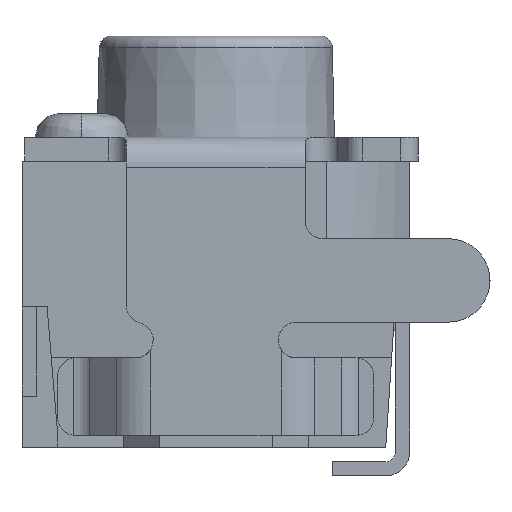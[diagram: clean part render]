
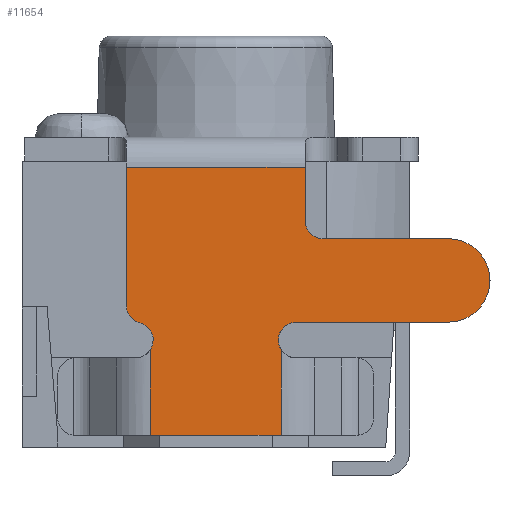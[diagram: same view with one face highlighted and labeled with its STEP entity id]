
A CAD part, left-side view. The second image highlights one B-rep face of the part: STEP entity #11654.
In plain terms, the highlighted planar face has unit normal (-1, 0, 0).
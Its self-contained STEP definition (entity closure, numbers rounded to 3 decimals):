
#1401=DIRECTION('',(0.,1.,0.));
#1402=VECTOR('',#1401,1.5);
#1403=CARTESIAN_POINT('',(-2.275,-0.75,-0.05));
#1404=LINE('',#1403,#1402);
#4784=CARTESIAN_POINT('',(-2.275,0.675,-1.5));
#4785=DIRECTION('',(-1.,0.,0.));
#4786=DIRECTION('',(0.,-0.845,-0.534));
#4787=AXIS2_PLACEMENT_3D('',#4784,#4785,#4786);
#4792=CARTESIAN_POINT('',(-2.275,0.6,-1.21));
#4793=DIRECTION('',(1.,0.,0.));
#4794=DIRECTION('',(0.,0.25,-0.968));
#4795=AXIS2_PLACEMENT_3D('',#4792,#4793,#4794);
#4800=DIRECTION('',(0.,0.,1.));
#4801=VECTOR('',#4800,1.16);
#4802=CARTESIAN_POINT('',(-2.275,0.75,-1.21));
#4803=LINE('',#4802,#4801);
#4807=CARTESIAN_POINT('',(-2.275,-0.9,-0.5));
#4808=DIRECTION('',(-1.,0.,0.));
#4809=DIRECTION('',(0.,1.,0.));
#4810=AXIS2_PLACEMENT_3D('',#4807,#4808,#4809);
#4815=CARTESIAN_POINT('',(-2.275,-1.95,-1.));
#4816=DIRECTION('',(1.,0.,0.));
#4817=DIRECTION('',(0.,0.,1.));
#4818=AXIS2_PLACEMENT_3D('',#4815,#4816,#4817);
#4823=CARTESIAN_POINT('',(-2.275,-0.675,-1.5));
#4824=DIRECTION('',(-1.,0.,0.));
#4825=DIRECTION('',(0.,0.,1.));
#4826=AXIS2_PLACEMENT_3D('',#4823,#4824,#4825);
#4831=DIRECTION('',(0.,1.,0.));
#4832=VECTOR('',#4831,1.096);
#4833=CARTESIAN_POINT('',(-2.275,-0.548,-2.3));
#4834=LINE('',#4833,#4832);
#4922=DIRECTION('',(0.,0.,1.));
#4923=VECTOR('',#4922,0.45);
#4924=CARTESIAN_POINT('',(-2.275,-0.75,-0.5));
#4925=LINE('',#4924,#4923);
#4958=DIRECTION('',(0.,1.,0.));
#4959=VECTOR('',#4958,1.05);
#4960=CARTESIAN_POINT('',(-2.275,-1.95,-0.65));
#4961=LINE('',#4960,#4959);
#4979=DIRECTION('',(0.,-1.,0.));
#4980=VECTOR('',#4979,1.275);
#4981=CARTESIAN_POINT('',(-2.275,-0.675,-1.35));
#4982=LINE('',#4981,#4980);
#4993=DIRECTION('',(0.,0.,-1.));
#4994=VECTOR('',#4993,0.72);
#4995=CARTESIAN_POINT('',(-2.275,0.548,-1.58));
#4996=LINE('',#4995,#4994);
#5073=DIRECTION('',(0.,0.,1.));
#5074=VECTOR('',#5073,0.72);
#5075=CARTESIAN_POINT('',(-2.275,-0.548,-2.3));
#5076=LINE('',#5075,#5074);
#5911=CARTESIAN_POINT('',(-2.275,-0.75,-0.5));
#5912=VERTEX_POINT('',#5911);
#5913=CARTESIAN_POINT('',(-2.275,-0.75,-0.05));
#5914=VERTEX_POINT('',#5913);
#5918=CARTESIAN_POINT('',(-2.275,0.75,-0.05));
#5920=VERTEX_POINT('',#5918);
#5921=CARTESIAN_POINT('',(-2.275,0.75,-1.21));
#5922=VERTEX_POINT('',#5921);
#5925=CARTESIAN_POINT('',(-2.275,0.638,-1.355));
#5926=VERTEX_POINT('',#5925);
#5927=CARTESIAN_POINT('',(-2.275,-0.9,-0.65));
#5928=VERTEX_POINT('',#5927);
#5929=CARTESIAN_POINT('',(-2.275,-0.548,-2.3));
#5930=CARTESIAN_POINT('',(-2.275,-0.548,-1.58));
#5931=VERTEX_POINT('',#5929);
#5932=VERTEX_POINT('',#5930);
#5933=CARTESIAN_POINT('',(-2.275,0.548,-2.3));
#5934=VERTEX_POINT('',#5933);
#5935=CARTESIAN_POINT('',(-2.275,0.548,-1.58));
#5936=VERTEX_POINT('',#5935);
#6002=CARTESIAN_POINT('',(-2.275,-0.675,-1.35));
#6004=VERTEX_POINT('',#6002);
#6485=CARTESIAN_POINT('',(-2.275,-1.95,-0.65));
#6486=CARTESIAN_POINT('',(-2.275,-1.95,-1.35));
#6487=VERTEX_POINT('',#6485);
#6488=VERTEX_POINT('',#6486);
#11624=CARTESIAN_POINT('',(-2.275,-0.75,0.));
#11625=DIRECTION('',(1.,0.,0.));
#11626=DIRECTION('',(0.,-1.,0.));
#11627=AXIS2_PLACEMENT_3D('',#11624,#11625,#11626);
#11628=PLANE('',#11627);
#11630=ORIENTED_EDGE('',*,*,#11629,.T.);
#11632=ORIENTED_EDGE('',*,*,#11631,.T.);
#11634=ORIENTED_EDGE('',*,*,#11633,.T.);
#11635=ORIENTED_EDGE('',*,*,#7509,.F.);
#11637=ORIENTED_EDGE('',*,*,#11636,.F.);
#11639=ORIENTED_EDGE('',*,*,#11638,.T.);
#11641=ORIENTED_EDGE('',*,*,#11640,.F.);
#11643=ORIENTED_EDGE('',*,*,#11642,.T.);
#11645=ORIENTED_EDGE('',*,*,#11644,.F.);
#11646=ORIENTED_EDGE('',*,*,#11601,.T.);
#11648=ORIENTED_EDGE('',*,*,#11647,.F.);
#11649=ORIENTED_EDGE('',*,*,#11268,.T.);
#11651=ORIENTED_EDGE('',*,*,#11650,.F.);
#11652=EDGE_LOOP('',(#11630,#11632,#11634,#11635,#11637,#11639,#11641,#11643,
#11645,#11646,#11648,#11649,#11651));
#11653=FACE_OUTER_BOUND('',#11652,.F.);
#4788=CIRCLE('',#4787,0.15);
#4796=CIRCLE('',#4795,0.15);
#4811=CIRCLE('',#4810,0.15);
#4819=CIRCLE('',#4818,0.35);
#4827=CIRCLE('',#4826,0.15);
#7509=EDGE_CURVE('',#5914,#5920,#1404,.T.);
#11268=EDGE_CURVE('',#5931,#5934,#4834,.T.);
#11601=EDGE_CURVE('',#6004,#5932,#4827,.T.);
#11629=EDGE_CURVE('',#5936,#5926,#4788,.T.);
#11631=EDGE_CURVE('',#5926,#5922,#4796,.T.);
#11633=EDGE_CURVE('',#5922,#5920,#4803,.T.);
#11636=EDGE_CURVE('',#5912,#5914,#4925,.T.);
#11638=EDGE_CURVE('',#5912,#5928,#4811,.T.);
#11640=EDGE_CURVE('',#6487,#5928,#4961,.T.);
#11642=EDGE_CURVE('',#6487,#6488,#4819,.T.);
#11644=EDGE_CURVE('',#6004,#6488,#4982,.T.);
#11647=EDGE_CURVE('',#5931,#5932,#5076,.T.);
#11650=EDGE_CURVE('',#5936,#5934,#4996,.T.);
#11654=ADVANCED_FACE('',(#11653),#11628,.F.);
